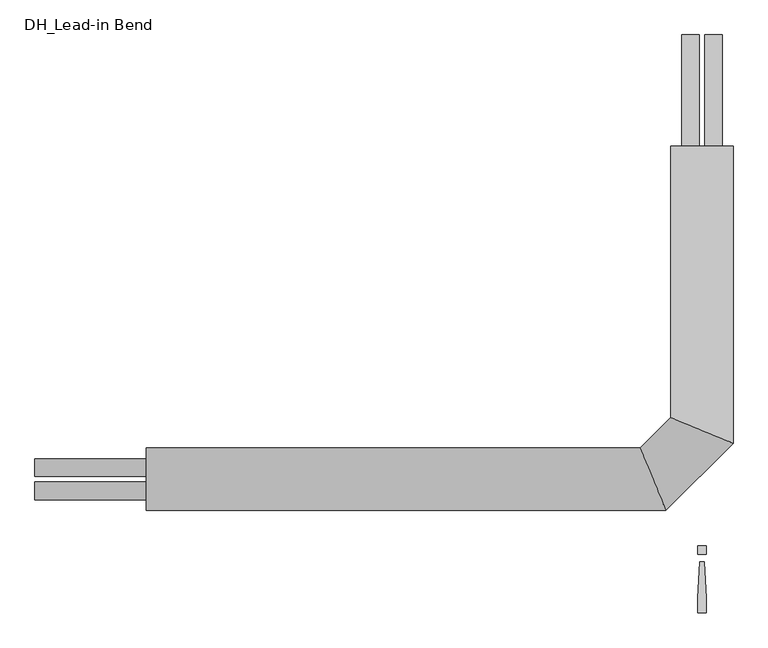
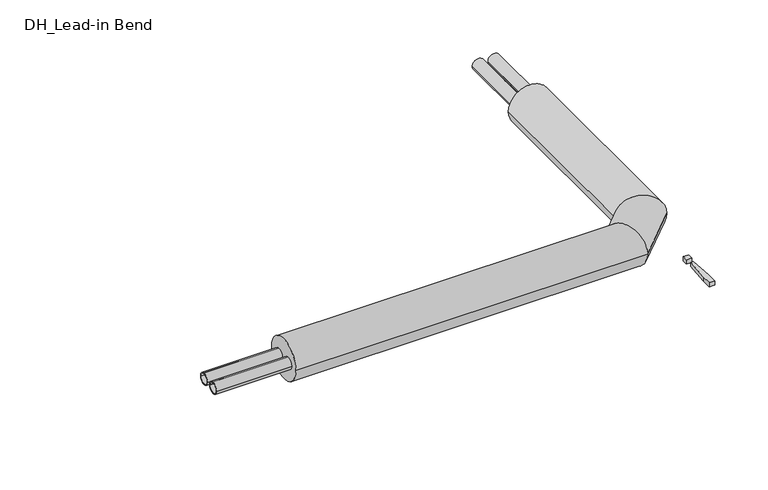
"""IFC4 building model written with IfcOpenShell, lengths in millimetres: pipe fitting geometry, DH_Lead-in Bend : INSULPEX DUO + 11 Heating Vertical."""

from ifc_helpers import new_model, si_unit, point, frame, frame_2d, origin, origin_with_axes, place, context, project, spatial, polyline, circle_curve, ellipse_curve, trimmed, segment, composite_curve, outline, extrude, source, transform, mapped, element, save
from ifc_brep_helpers import plane_surface, cylinder_surface, advanced_brep


def dh_lead_in_bend_a3bf7bc0(model_context):
    return source(origin(), model_context, "Body", "SolidModel", [
        extrude(outline(composite_curve([segment(trimmed(circle_curve(frame_2d((-26.0, 0.0)), 20.0), [point((-6.0, 0.0))], [point((-46.0, 0.0))], False, "CARTESIAN"), True, "CONTINUOUS"), segment(trimmed(circle_curve(frame_2d((-26.0, 0.0)), 20.0), [point((-46.0, 0.0))], [point((-6.0, 0.0))], False, "CARTESIAN"), True, "CONTINUOUS")], self_intersect=False), holes=[composite_curve([segment(trimmed(circle_curve(frame_2d((-26.0, 0.0)), 16.3), [point((-9.7, 0.0))], [point((-42.3, 0.0))], True, "CARTESIAN"), True, "CONTINUOUS"), segment(trimmed(circle_curve(frame_2d((-26.0, 0.0)), 16.3), [point((-42.3, 0.0))], [point((-9.7, 0.0))], True, "CARTESIAN"), True, "CONTINUOUS")], self_intersect=False)]), frame((-1500.0, 0.0, 0.0), z_axis=(1.0, 0.0, 0.0), x_axis=(0.0, 1.0, 0.0)), (0.0, 0.0, 1.0), 250.0),
        advanced_brep(
        [(-1250.0, -70.0, 0.0), (-1250.0, 70.0, 0.0), (-81.0050506, -70.0, 0.0), (-138.9949494, 70.0, 0.0), (70.0, 750.0, 0.0), (-70.0, 750.0, 0.0), (-70.0, 138.9949494, 0.0), (70.0, 81.0050506, 0.0)],
        [
            (0, 1, circle_curve(frame((-1250.0, 0.0, 0.0), z_axis=(-1.0, 0.0, 0.0), x_axis=(0.0, 1.0, 0.0)), 70.0)),
            (1, 0, circle_curve(frame((-1250.0, 0.0, 0.0), z_axis=(-1.0, 0.0, 0.0), x_axis=(0.0, 1.0, 0.0)), 70.0)),
            (0, 2),
            (2, 3, ellipse_curve(frame((-110.0, 0.0, 0.0), z_axis=(-0.9238795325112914, -0.3826834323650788, 0.0), x_axis=(-0.38268343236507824, 0.9238795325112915, 0.0)), 75.767454, 70.0)),
            (3, 1),
            (3, 2, ellipse_curve(frame((-110.0, 0.0, 0.0), z_axis=(-0.9238795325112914, -0.3826834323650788, 0.0), x_axis=(-0.38268343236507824, 0.9238795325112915, 0.0)), 75.767454, 70.0)),
            (4, 5, circle_curve(frame((0.0, 750.0, 0.0), z_axis=(0.0, 1.0, 0.0), x_axis=(-1.0, 0.0, 0.0)), 70.0)),
            (5, 4, circle_curve(frame((0.0, 750.0, 0.0), z_axis=(0.0, 1.0, 0.0), x_axis=(-1.0, 0.0, 0.0)), 70.0)),
            (6, 7, ellipse_curve(frame((0.0, 110.0, 0.0), z_axis=(0.38268343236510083, 0.9238795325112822, 0.0), x_axis=(0.9238795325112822, -0.3826834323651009, 0.0)), 75.767454, 70.0)),
            (7, 4),
            (5, 6),
            (7, 6, ellipse_curve(frame((0.0, 110.0, 0.0), z_axis=(0.38268343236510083, 0.9238795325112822, 0.0), x_axis=(0.9238795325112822, -0.3826834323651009, 0.0)), 75.767454, 70.0)),
            (2, 7),
            (6, 3),
        ],
        [
            plane_surface(frame((-1250.0, 0.0, 0.0), z_axis=(-1.0, 0.0, 0.0), x_axis=(0.0, 0.0, 1.0))),
            cylinder_surface(frame((-1250.0, 0.0, 0.0), z_axis=(-1.0, 0.0, 0.0), x_axis=(0.0, 1.0, 0.0)), 70.0),
            plane_surface(frame((0.0, 750.0, 0.0), z_axis=(0.0, 1.0, 0.0), x_axis=(0.0, 0.0, 1.0))),
            cylinder_surface(frame((0.0, 110.0, 0.0), z_axis=(0.0, -1.0, 0.0), x_axis=(-1.0, 0.0, 0.0)), 70.0),
            cylinder_surface(frame((-110.0, 0.0, 0.0), z_axis=(-0.7071067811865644, -0.7071067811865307, 0.0), x_axis=(-0.7071067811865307, 0.7071067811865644, 0.0)), 70.0),
        ],
        [
            (0, [[1, 2]]),
            (1, [[-1, 3, 4, 5]]),
            (1, [[-2, -5, 6, -3]]),
            (2, [[7, 8]]),
            (3, [[9, 10, -8, 11]]),
            (3, [[12, -11, -7, -10]]),
            (4, [[-4, 13, -9, 14]]),
            (4, [[-6, -14, -12, -13]]),
        ],
    ),
        extrude(outline(composite_curve([segment(trimmed(circle_curve(frame_2d((0.0, -26.0)), 20.0), [point((0.0, -6.0))], [point((0.0, -46.0))], False, "CARTESIAN"), True, "CONTINUOUS"), segment(trimmed(circle_curve(frame_2d((0.0, -26.0)), 20.0), [point((0.0, -46.0))], [point((0.0, -6.0))], False, "CARTESIAN"), True, "CONTINUOUS")], self_intersect=False), holes=[composite_curve([segment(trimmed(circle_curve(frame_2d((0.0, -26.0)), 16.3), [point((0.0, -9.7))], [point((0.0, -42.3))], True, "CARTESIAN"), True, "CONTINUOUS"), segment(trimmed(circle_curve(frame_2d((0.0, -26.0)), 16.3), [point((0.0, -42.3))], [point((0.0, -9.7))], True, "CARTESIAN"), True, "CONTINUOUS")], self_intersect=False)]), frame((0.0, 750.0, 0.0), z_axis=(0.0, 1.0, 0.0), x_axis=(0.0, 0.0, 1.0)), (0.0, 0.0, 1.0), 250.0),
        extrude(outline(composite_curve([segment(trimmed(circle_curve(frame_2d((26.0, 0.0)), 20.0), [point((6.0, 0.0))], [point((46.0, 0.0))], False, "CARTESIAN"), True, "CONTINUOUS"), segment(trimmed(circle_curve(frame_2d((26.0, 0.0)), 20.0), [point((46.0, 0.0))], [point((6.0, 0.0))], False, "CARTESIAN"), True, "CONTINUOUS")], self_intersect=False), holes=[composite_curve([segment(trimmed(circle_curve(frame_2d((26.0, 0.0)), 16.3), [point((9.7, 0.0))], [point((42.3, 0.0))], True, "CARTESIAN"), True, "CONTINUOUS"), segment(trimmed(circle_curve(frame_2d((26.0, 0.0)), 16.3), [point((42.3, 0.0))], [point((9.7, 0.0))], True, "CARTESIAN"), True, "CONTINUOUS")], self_intersect=False)]), frame((-1500.0, 0.0, 0.0), z_axis=(1.0, 0.0, 0.0), x_axis=(0.0, 1.0, 0.0)), (0.0, 0.0, 1.0), 250.0),
        extrude(outline(composite_curve([segment(trimmed(circle_curve(frame_2d((0.0, 26.0)), 20.0), [point((0.0, 6.0))], [point((0.0, 46.0))], False, "CARTESIAN"), True, "CONTINUOUS"), segment(trimmed(circle_curve(frame_2d((0.0, 26.0)), 20.0), [point((0.0, 46.0))], [point((0.0, 6.0))], False, "CARTESIAN"), True, "CONTINUOUS")], self_intersect=False), holes=[composite_curve([segment(trimmed(circle_curve(frame_2d((0.0, 26.0)), 16.3), [point((0.0, 9.7))], [point((0.0, 42.3))], True, "CARTESIAN"), True, "CONTINUOUS"), segment(trimmed(circle_curve(frame_2d((0.0, 26.0)), 16.3), [point((0.0, 42.3))], [point((0.0, 9.7))], True, "CARTESIAN"), True, "CONTINUOUS")], self_intersect=False)]), frame((0.0, 750.0, 0.0), z_axis=(0.0, 1.0, 0.0), x_axis=(0.0, 0.0, 1.0)), (0.0, 0.0, 1.0), 250.0),
        extrude(outline(polyline([(4.7088895, -185.3166715), (9.4177791, -266.6553807), (9.4177791, -300.6844652), (-9.4177791, -300.6844652), (-9.4177791, -266.6553807), (-4.7088895, -185.3166715), (4.7088895, -185.3166715)])), origin_with_axes(), (0.0, 0.0, 1.0), 15.0),
        extrude(outline(polyline([(9.4177791, -150.0), (9.4177791, -168.8355582), (-9.4177791, -168.8355582), (-9.4177791, -150.0), (9.4177791, -150.0)])), origin_with_axes(), (0.0, 0.0, 1.0), 15.0),
    ])


if __name__ == "__main__":
    model = new_model("IFC4")
    model_context = context("Model", 3, world=origin())
    ifc_project = project(units=[si_unit("LENGTHUNIT", "METRE", prefix="MILLI")], contexts=[model_context])
    site = spatial("IfcSite", under=ifc_project)
    building = spatial("IfcBuilding", under=site)
    placement = place(None, origin())
    dh_lead_in_bend_shape = dh_lead_in_bend_a3bf7bc0(model_context)
    element("IfcPipeFitting", 1, ObjectType="DH_Lead-in Bend : INSULPEX DUO + 11 Heating Vertical", at=placement, inside=building, context=model_context, shape_type="MappedRepresentation", body=[
        mapped(dh_lead_in_bend_shape, transform((0.0, 0.0, 0.0), x_axis=(1.0, 0.0, 0.0), y_axis=(0.0, 1.0, 0.0), z_axis=(0.0, 0.0, 1.0))),
    ])
    save(model, "model.ifc")
